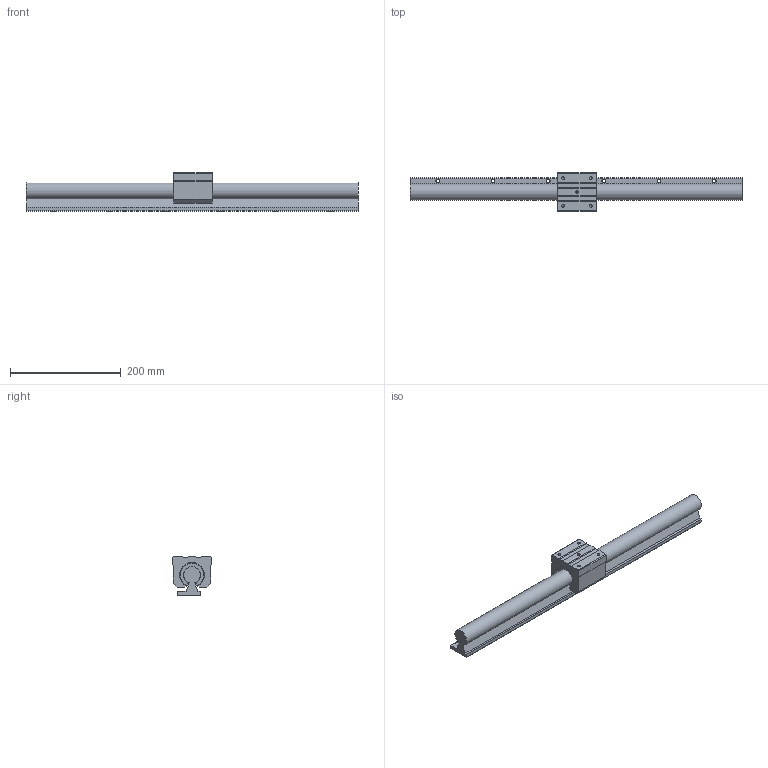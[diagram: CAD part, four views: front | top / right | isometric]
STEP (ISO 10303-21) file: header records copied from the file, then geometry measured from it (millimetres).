
FILE_DESCRIPTION((''),'2;1');
FILE_NAME('D:\製品 (図面)\カタログ用3D\リニアガイド関連\STEP形式\GHA(W)\GHA30.stp','2010-06-08T09:14:37',('Tsuchiya'),(''),'Autodesk Inventor 10','Autodesk Inventor 10','');
FILE_SCHEMA(('AUTOMOTIVE_DESIGN { 1 0 10303 214 1 1 1 1 }'));
Length unit declared in the file: millimetre
Products named in the file (3): GHA30; GHA301; GHA302
Assembly tree (2 placements, depth 2):
  GHA30
    GHA301
    GHA302
Bounding box: 600 x 70 x 70 mm (x, y, z)
Volume: 933822.9 mm3; surface area: 151407.2 mm2
Topology: 2 solids, 2 shells, 160 faces, 422 edges, 275 vertices
Faces by surface type: plane 98, cylinder 37, bspline 10, torus 8, cone 7
Full cylindrical faces by diameter (mm): 6.5 x6, 10 x6, 10.4 x6
Entity records: 4734 total; most frequent: CARTESIAN_POINT 1062, ORIENTED_EDGE 722, DIRECTION 717, EDGE_CURVE 361, VERTEX_POINT 254, AXIS2_PLACEMENT_3D 247, EDGE_LOOP 225, VECTOR 223
